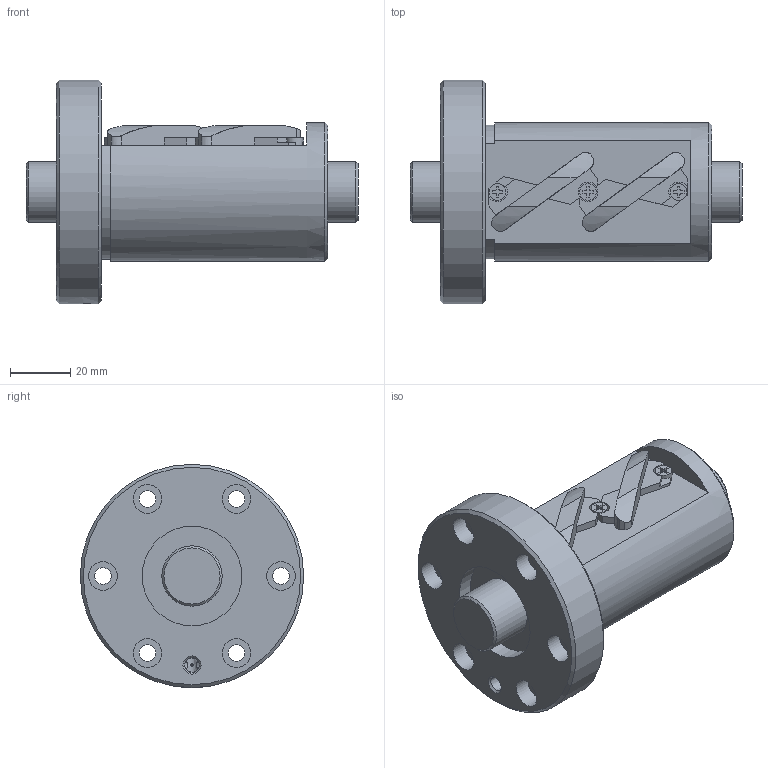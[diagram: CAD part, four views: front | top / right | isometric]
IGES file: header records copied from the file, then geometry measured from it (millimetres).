
Start section: Data from Parasolid IGES Translator 26.0.171, Copyright(c) 2006 Siemens PLM Software. All Rights Reserved.
Global section: file name: BIF2010V-5RRG0+110LC0_000.igs; native system: By Siemens PLM Incorporated; preprocessor: XPlus GENERIC/IGES 26.0.171; author: Noname; organization: Noname; date: 20240715.081704; units: millimetre
Bounding box: 110 x 74 x 74 mm (x, y, z)
Surface area: 39380.6 mm2 (no closed solid volume)
Topology: 0 solids, 0 shells, 173 faces, 896 edges, 866 vertices
Faces by surface type: extrusion 106, revolution 67
